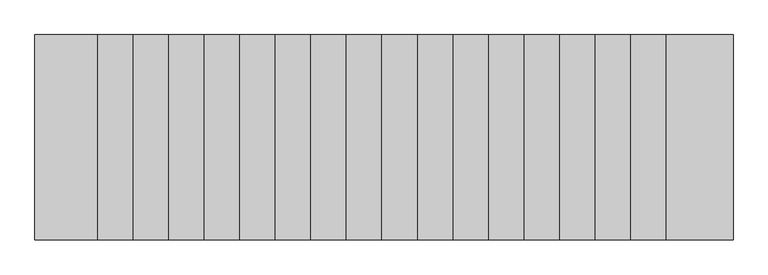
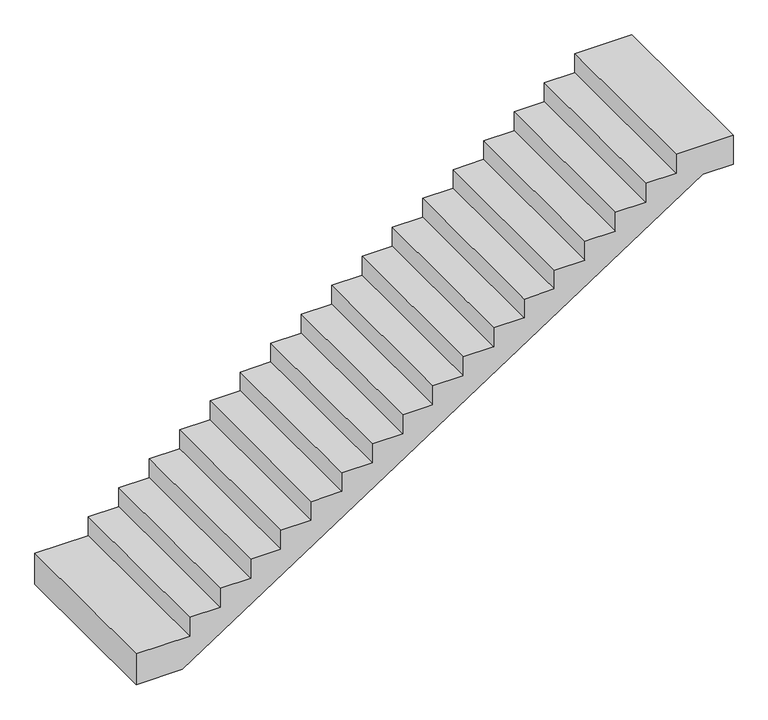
"""IFC4 building model written with IfcOpenShell, lengths in millimetres: proxy geometry, 常规模型 1 : 常规模型 1."""

from ifc_helpers import new_model, si_unit, frame, origin, place, context, project, spatial, polyline, outline, extrude, source, transform, mapped, element, save


def generic_models_d7fb4fc1(model_context):
    return source(origin(), model_context, "Body", "SweptSolid", [
        extrude(outline(polyline([(-2210.6034169, -11187.7811982), (-2210.6034169, -10927.7811982), (-1950.6034169, -10927.7811982), (-1950.6034169, -11415.7811982), (-2121.1916522, -11415.7811982), (-2121.1916522, -11675.7529951), (-2291.7798875, -11675.7529951), (-2291.7798875, -11935.7247921), (-2462.3681228, -11935.7247921), (-2462.3681228, -12195.696589), (-2632.9563581, -12195.696589), (-2632.9563581, -12455.6683859), (-2803.5445934, -12455.6683859), (-2803.5445934, -12715.6401829), (-2974.1328287, -12715.6401829), (-2974.1328287, -12975.6119798), (-3144.721064, -12975.6119798), (-3144.721064, -13235.5837768), (-3315.3092992, -13235.5837768), (-3315.3092992, -13495.5555737), (-3485.8975345, -13495.5555737), (-3485.8975345, -13755.5273706), (-3656.4857698, -13755.5273706), (-3656.4857698, -14015.4991676), (-3827.0740051, -14015.4991676), (-3827.0740051, -14275.4709645), (-3997.6622404, -14275.4709645), (-3997.6622404, -14535.4427615), (-4168.2504757, -14535.4427615), (-4168.2504757, -14795.4145584), (-4338.838711, -14795.4145584), (-4338.838711, -15055.3863553), (-4509.4269463, -15055.3863553), (-4509.4269463, -15315.3581523), (-4680.0151816, -15315.3581523), (-4680.0151816, -15575.7811982), (-4850.6034169, -15575.7811982), (-4850.6034169, -16033.7811982), (-5130.6034169, -16033.7811982), (-5130.6034169, -15637.7811982), (-2210.6034169, -11187.7811982)])), frame((0.0, -22830.4452952, 0.0), z_axis=(0.0, 1.0, 0.0), x_axis=(0.0, 0.0, 1.0)), (0.0, 0.0, 1.0), 1500.0),
    ])


if __name__ == "__main__":
    model = new_model("IFC4")
    model_context = context("Model", 3, world=origin())
    ifc_project = project(units=[si_unit("LENGTHUNIT", "METRE", prefix="MILLI")], contexts=[model_context])
    site = spatial("IfcSite", under=ifc_project)
    building = spatial("IfcBuilding", under=site)
    placement = place(None, origin())
    generic_models_shape = generic_models_d7fb4fc1(model_context)
    element("IfcBuildingElementProxy", 1, Name="常规模型 1 : 常规模型 1", ObjectType="常规模型 1 : 常规模型 1", at=placement, inside=building, context=model_context, shape_type="MappedRepresentation", body=[
        mapped(generic_models_shape, transform((0.0, 0.0, 0.0), x_axis=(1.0, 0.0, 0.0), y_axis=(0.0, 1.0, 0.0), z_axis=(0.0, 0.0, 1.0))),
    ])
    save(model, "model.ifc")
